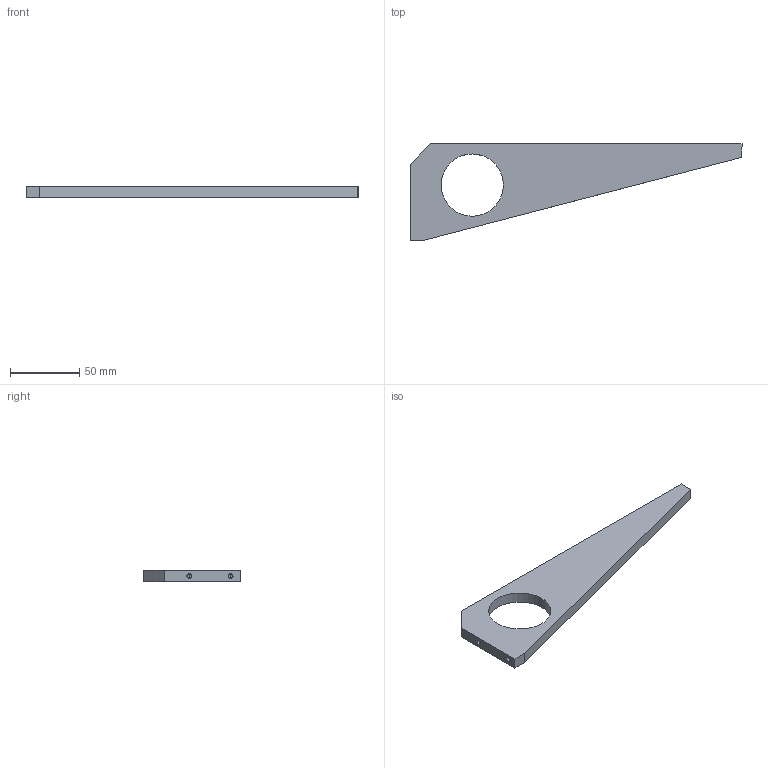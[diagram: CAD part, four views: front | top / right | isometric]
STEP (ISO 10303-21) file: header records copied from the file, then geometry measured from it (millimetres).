
FILE_DESCRIPTION (( 'STEP AP214' ), '1' );
FILE_NAME ('⑤_補強ﾘﾌﾞ.STEP', '2024-05-01T07:19:14', ( '' ), ( '' ), 'SwSTEP 2.0', 'SolidWorks 2023', '' );
FILE_SCHEMA (( 'AUTOMOTIVE_DESIGN' ));
Length unit declared in the file: millimetre
Products named in the file (1): ⑤_補強ﾘﾌﾞ
Bounding box: 240 x 70 x 8 mm (x, y, z)
Volume: 65070.6 mm3; surface area: 22599.6 mm2
Topology: 1 solids, 1 shells, 30 faces, 74 edges, 41 vertices
Faces by surface type: cylinder 12, cone 10, plane 8
Entity records: 839 total; most frequent: DIRECTION 150, CARTESIAN_POINT 136, ORIENTED_EDGE 128, EDGE_CURVE 64, AXIS2_PLACEMENT_3D 55, VERTEX_POINT 41, VECTOR 40, LINE 40
